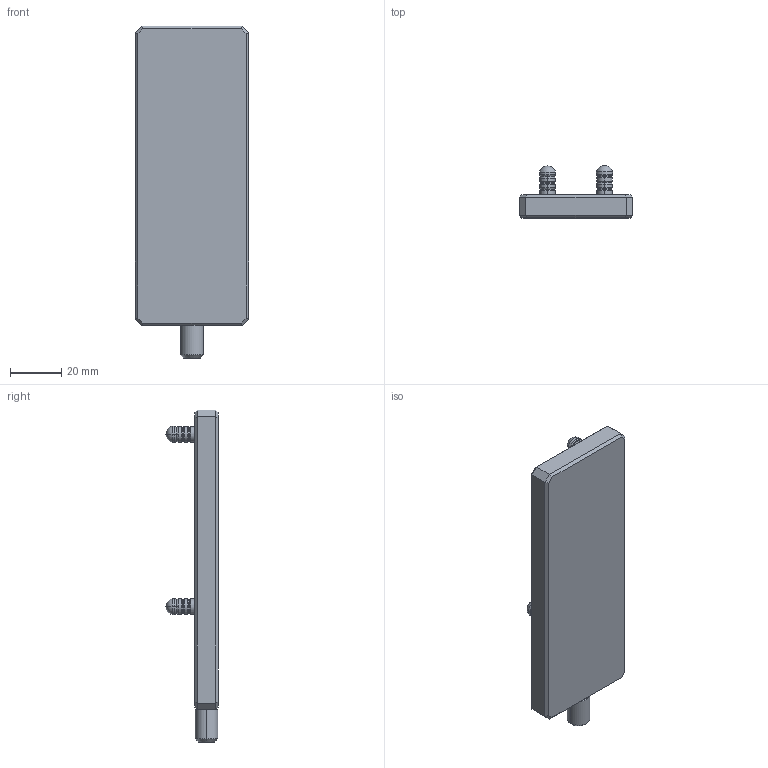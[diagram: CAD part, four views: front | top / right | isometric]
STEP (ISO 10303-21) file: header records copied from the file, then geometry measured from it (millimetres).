
FILE_DESCRIPTION((''),'2;1');
FILE_NAME('EUCHRE_ASSY1_ASM','2022-03-23T14:51:52',('Tim'),(''),'CREO PARAMETRIC BY PTC INC, 2021164','CREO PARAMETRIC BY PTC INC, 2021164','');
FILE_SCHEMA(('CONFIG_CONTROL_DESIGN'));
Length unit declared in the file: inch
Products named in the file (4): LBL111; LBL111_3; LBL111_2; EUCHRE_ASSY1_ASM
Assembly tree (4 placements, depth 2):
  EUCHRE_ASSY1_ASM
    LBL111
    LBL111_3  x2
    LBL111_2
Bounding box: 44.45 x 20.53 x 130.18 mm (x, y, z)
Volume: 43284.4 mm3; surface area: 18554.9 mm2
Topology: 4 solids, 5 shells, 646 faces, 1722 edges, 1126 vertices
Faces by surface type: plane 526, cylinder 84, torus 24, cone 8, sphere 4
Entity records: 19022 total; most frequent: CARTESIAN_POINT 3354, ORIENTED_EDGE 3288, DIRECTION 3068, EDGE_CURVE 1646, VECTOR 1474, LINE 1474, VERTEX_POINT 1083, AXIS2_PLACEMENT_3D 797
